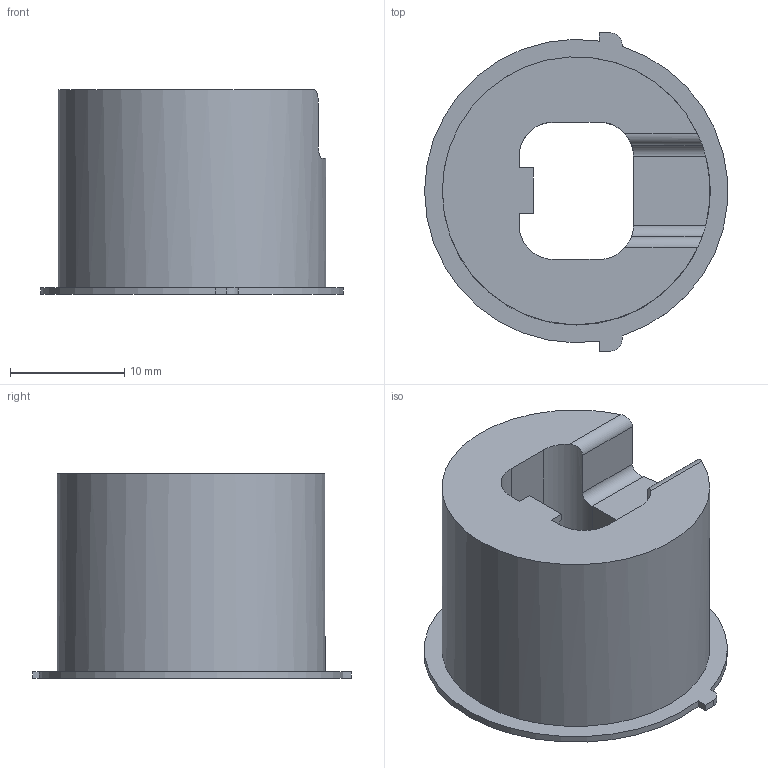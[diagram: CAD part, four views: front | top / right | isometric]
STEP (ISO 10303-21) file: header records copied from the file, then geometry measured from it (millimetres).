
FILE_DESCRIPTION(/* description */ ('Unknown'),/* implementation_level */ '2;1');
FILE_NAME(/* name */ 'motor-case-adapter',/* time_stamp */ '2024-05-08T11:09:17-05:00',/* author */ ('Unknown'),/* organization */ ('Unknown'),/* preprocessor_version */ 'ST-DEVELOPER v18.102',/* originating_system */ 'Solid Edge',/* authorisation */ 'Unknown');
FILE_SCHEMA (('AUTOMOTIVE_DESIGN {1 0 10303 214 3 1 1}'));
Length unit declared in the file: millimetre
Products named in the file (1): motor-case-adapter
Bounding box: 26.45 x 27.79 x 17.9 mm (x, y, z)
Volume: 5457.8 mm3; surface area: 2880.8 mm2
Topology: 1 solids, 1 shells, 33 faces, 91 edges, 60 vertices
Faces by surface type: plane 20, cylinder 13
Full cylindrical faces by diameter (mm): 23.4 x1
Entity records: 1084 total; most frequent: CARTESIAN_POINT 214, ORIENTED_EDGE 178, DIRECTION 168, EDGE_CURVE 89, LINE 62, VECTOR 62, VERTEX_POINT 59, AXIS2_PLACEMENT_3D 53
